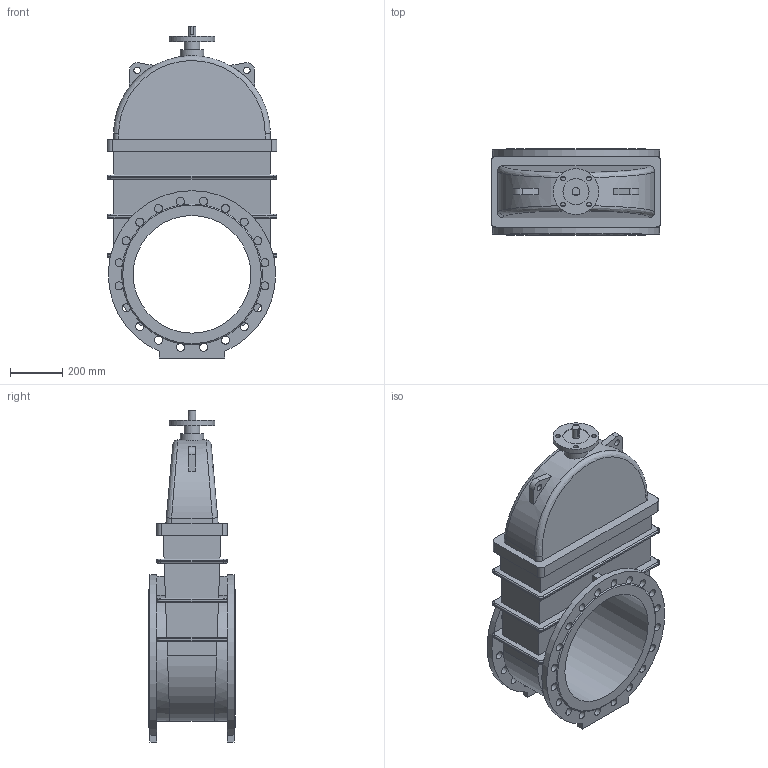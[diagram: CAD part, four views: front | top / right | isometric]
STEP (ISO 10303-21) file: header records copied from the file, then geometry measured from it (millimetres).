
FILE_DESCRIPTION(('STEP AP203'), '1');
FILE_NAME('Çàäâèæêà 47GVA.Z DN450 PN16 áåç èñïîëíèò. ìåõ.', '', ('UNSPECIFIED'), ('UNSPECIFIED'), 'ASCON STEP Converter 1.6', 'ASCON Math Kernel', '');
FILE_SCHEMA(('CONFIG_CONTROL_DESIGN'));
Length unit declared in the file: millimetre
Bounding box: 650 x 330 x 1270 mm (x, y, z)
Volume: 96720991.4 mm3; surface area: 3077546 mm2
Topology: 1 solids, 1 shells, 250 faces, 756 edges, 486 vertices
Faces by surface type: cylinder 121, plane 101, bspline 26, cone 2
Full cylindrical faces by diameter (mm): 18 x4, 25 x2, 30 x1, 31 x40, 60 x1, 90 x1, 100 x1, 175 x1, 450 x1
Entity records: 16440 total; most frequent: CARTESIAN_POINT 7856, ORIENTED_EDGE 1404, DIRECTION 1287, EDGE_CURVE 702, AXIS2_PLACEMENT_3D 500, VERTEX_POINT 486, EDGE_LOOP 376, FACE_BOUND 311
